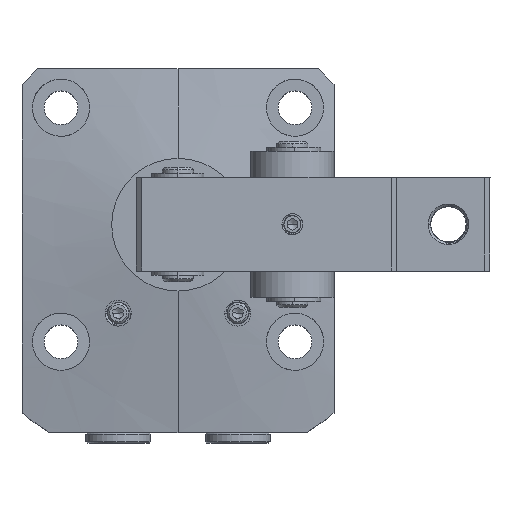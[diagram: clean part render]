
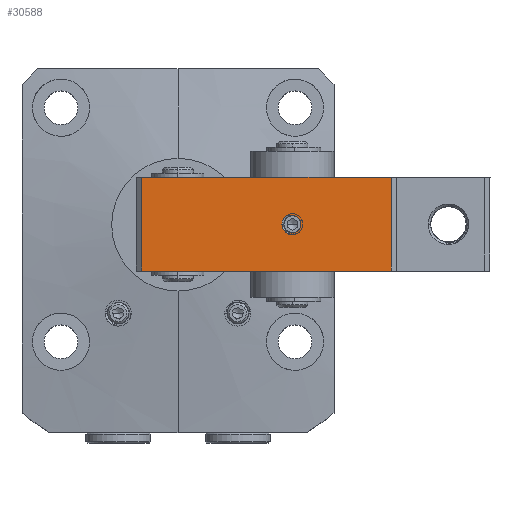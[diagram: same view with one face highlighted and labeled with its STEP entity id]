
A CAD part, top view. The second image highlights one B-rep face of the part: STEP entity #30588.
In plain terms, the highlighted planar face has unit normal (0, 0, 1) as drawn and (-0.135, 0.991, 0) by its records, which use the part's own axes.
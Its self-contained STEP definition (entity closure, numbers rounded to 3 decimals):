
#1116 = CIRCLE ( 'NONE', #43987, 1.769 ) ;
#1559 = CIRCLE ( 'NONE', #19608, 1.996 ) ;
#3491 = ORIENTED_EDGE ( 'NONE', *, *, #10226, .T. ) ;
#4615 = ORIENTED_EDGE ( 'NONE', *, *, #45924, .T. ) ;
#5094 = VECTOR ( 'NONE', #59999, 1000. ) ;
#6307 = FACE_BOUND ( 'NONE', #13120, .T. ) ;
#6503 = CIRCLE ( 'NONE', #47600, 1.617 ) ;
#7319 = EDGE_CURVE ( 'NONE', #9133, #17678, #8469, .T. ) ;
#7843 = VERTEX_POINT ( 'NONE', #8867 ) ;
#8451 = EDGE_CURVE ( 'NONE', #58173, #15802, #1559, .T. ) ;
#8469 = CIRCLE ( 'NONE', #41994, 1.769 ) ;
#8555 = VERTEX_POINT ( 'NONE', #29339 ) ;
#8816 = DIRECTION ( 'NONE',  ( 0.135, -0.991, 0. ) ) ;
#8867 = CARTESIAN_POINT ( 'NONE',  ( -19.906, 5.363, 4.6 ) ) ;
#9133 = VERTEX_POINT ( 'NONE', #48332 ) ;
#10226 = EDGE_CURVE ( 'NONE', #15802, #50780, #1116, .T. ) ;
#11079 = EDGE_LOOP ( 'NONE', ( #13114, #60438, #50563, #31188 ) ) ;
#13114 = ORIENTED_EDGE ( 'NONE', *, *, #26612, .T. ) ;
#13120 = EDGE_LOOP ( 'NONE', ( #53247, #24342, #3491, #59749, #4615, #64336 ) ) ;
#13129 = DIRECTION ( 'NONE',  ( -0.991, -0.135, 0. ) ) ;
#13796 = EDGE_CURVE ( 'NONE', #14228, #7843, #18880, .T. ) ;
#13975 = VECTOR ( 'NONE', #65381, 1000. ) ;
#14228 = VERTEX_POINT ( 'NONE', #29172 ) ;
#14926 = EDGE_CURVE ( 'NONE', #17678, #58173, #22488, .T. ) ;
#15802 = VERTEX_POINT ( 'NONE', #36263 ) ;
#16029 = EDGE_CURVE ( 'NONE', #50780, #30698, #63129, .T. ) ;
#16219 = DIRECTION ( 'NONE',  ( 0.135, -0.991, 0. ) ) ;
#16731 = CARTESIAN_POINT ( 'NONE',  ( -0.779, 7.968, 13.6 ) ) ;
#17652 = EDGE_CURVE ( 'NONE', #8555, #14228, #19547, .T. ) ;
#17678 = VERTEX_POINT ( 'NONE', #25106 ) ;
#18880 = LINE ( 'NONE', #62845, #5094 ) ;
#19081 = EDGE_CURVE ( 'NONE', #7843, #56668, #44907, .T. ) ;
#19547 = LINE ( 'NONE', #26121, #63951 ) ;
#19608 = AXIS2_PLACEMENT_3D ( 'NONE', #38402, #38301, #38217 ) ;
#22488 = CIRCLE ( 'NONE', #39215, 1.996 ) ;
#23892 = LINE ( 'NONE', #62106, #54689 ) ;
#24342 = ORIENTED_EDGE ( 'NONE', *, *, #8451, .T. ) ;
#24466 = DIRECTION ( 'NONE',  ( 0.991, 0.135, 0. ) ) ;
#24525 = DIRECTION ( 'NONE',  ( 0.135, -0.991, 0. ) ) ;
#24616 = CARTESIAN_POINT ( 'NONE',  ( -1.079, 7.927, 13.6 ) ) ;
#25106 = CARTESIAN_POINT ( 'NONE',  ( 0.47, 8.138, 12.359 ) ) ;
#25706 = DIRECTION ( 'NONE',  ( 0., 0., -1. ) ) ;
#26121 = CARTESIAN_POINT ( 'NONE',  ( 27.655, 11.84, 4.6 ) ) ;
#26612 = EDGE_CURVE ( 'NONE', #56668, #8555, #23892, .T. ) ;
#29172 = CARTESIAN_POINT ( 'NONE',  ( 27.655, 11.84, 4.6 ) ) ;
#29339 = CARTESIAN_POINT ( 'NONE',  ( 27.655, 11.84, 22.6 ) ) ;
#30588 = ADVANCED_FACE ( 'NONE', ( #6307, #69953 ), #40991, .T. ) ;
#30698 = VERTEX_POINT ( 'NONE', #37209 ) ;
#31188 = ORIENTED_EDGE ( 'NONE', *, *, #19081, .T. ) ;
#36181 = AXIS2_PLACEMENT_3D ( 'NONE', #41463, #40743, #40675 ) ;
#36263 = CARTESIAN_POINT ( 'NONE',  ( 0.47, 8.138, 14.841 ) ) ;
#37209 = CARTESIAN_POINT ( 'NONE',  ( -2.682, 7.709, 13.6 ) ) ;
#38217 = DIRECTION ( 'NONE',  ( 0.991, 0.135, 0. ) ) ;
#38301 = DIRECTION ( 'NONE',  ( 0.135, -0.991, 0. ) ) ;
#38402 = CARTESIAN_POINT ( 'NONE',  ( -1.079, 7.927, 13.6 ) ) ;
#39215 = AXIS2_PLACEMENT_3D ( 'NONE', #41468, #41394, #41306 ) ;
#40675 = DIRECTION ( 'NONE',  ( -0.991, -0.135, 0. ) ) ;
#40743 = DIRECTION ( 'NONE',  ( -0.135, 0.991, 0. ) ) ;
#40991 = PLANE ( 'NONE',  #36181 ) ;
#41306 = DIRECTION ( 'NONE',  ( 0.991, 0.135, 0. ) ) ;
#41394 = DIRECTION ( 'NONE',  ( 0.135, -0.991, 0. ) ) ;
#41463 = CARTESIAN_POINT ( 'NONE',  ( 27.655, 11.84, 4.6 ) ) ;
#41468 = CARTESIAN_POINT ( 'NONE',  ( -1.079, 7.927, 13.6 ) ) ;
#41994 = AXIS2_PLACEMENT_3D ( 'NONE', #44496, #44442, #44423 ) ;
#43718 = CARTESIAN_POINT ( 'NONE',  ( -1.079, 7.927, 13.6 ) ) ;
#43987 = AXIS2_PLACEMENT_3D ( 'NONE', #16731, #16219, #13129 ) ;
#44423 = DIRECTION ( 'NONE',  ( 0.991, 0.135, 0. ) ) ;
#44442 = DIRECTION ( 'NONE',  ( 0.135, -0.991, 0. ) ) ;
#44496 = CARTESIAN_POINT ( 'NONE',  ( -0.779, 7.968, 13.6 ) ) ;
#44907 = LINE ( 'NONE', #65967, #13975 ) ;
#45924 = EDGE_CURVE ( 'NONE', #30698, #9133, #6503, .T. ) ;
#47600 = AXIS2_PLACEMENT_3D ( 'NONE', #43718, #8816, #49548 ) ;
#48332 = CARTESIAN_POINT ( 'NONE',  ( -1.768, 7.833, 12.14 ) ) ;
#49548 = DIRECTION ( 'NONE',  ( 0.991, 0.135, 0. ) ) ;
#50563 = ORIENTED_EDGE ( 'NONE', *, *, #13796, .T. ) ;
#50780 = VERTEX_POINT ( 'NONE', #59359 ) ;
#53247 = ORIENTED_EDGE ( 'NONE', *, *, #14926, .T. ) ;
#53912 = CARTESIAN_POINT ( 'NONE',  ( 0.898, 8.196, 13.6 ) ) ;
#54689 = VECTOR ( 'NONE', #61766, 1000. ) ;
#56668 = VERTEX_POINT ( 'NONE', #66813 ) ;
#58173 = VERTEX_POINT ( 'NONE', #53912 ) ;
#59359 = CARTESIAN_POINT ( 'NONE',  ( -1.768, 7.833, 15.06 ) ) ;
#59749 = ORIENTED_EDGE ( 'NONE', *, *, #16029, .T. ) ;
#59999 = DIRECTION ( 'NONE',  ( -0.991, -0.135, 0. ) ) ;
#60438 = ORIENTED_EDGE ( 'NONE', *, *, #17652, .T. ) ;
#61043 = AXIS2_PLACEMENT_3D ( 'NONE', #24616, #24525, #24466 ) ;
#61766 = DIRECTION ( 'NONE',  ( 0.991, 0.135, 0. ) ) ;
#62106 = CARTESIAN_POINT ( 'NONE',  ( -19.906, 5.363, 22.6 ) ) ;
#62845 = CARTESIAN_POINT ( 'NONE',  ( 27.655, 11.84, 4.6 ) ) ;
#63129 = CIRCLE ( 'NONE', #61043, 1.617 ) ;
#63951 = VECTOR ( 'NONE', #25706, 1000. ) ;
#64336 = ORIENTED_EDGE ( 'NONE', *, *, #7319, .T. ) ;
#65381 = DIRECTION ( 'NONE',  ( 0., 0., 1. ) ) ;
#65967 = CARTESIAN_POINT ( 'NONE',  ( -19.906, 5.363, 4.6 ) ) ;
#66813 = CARTESIAN_POINT ( 'NONE',  ( -19.906, 5.363, 22.6 ) ) ;
#69953 = FACE_OUTER_BOUND ( 'NONE', #11079, .T. ) ;
